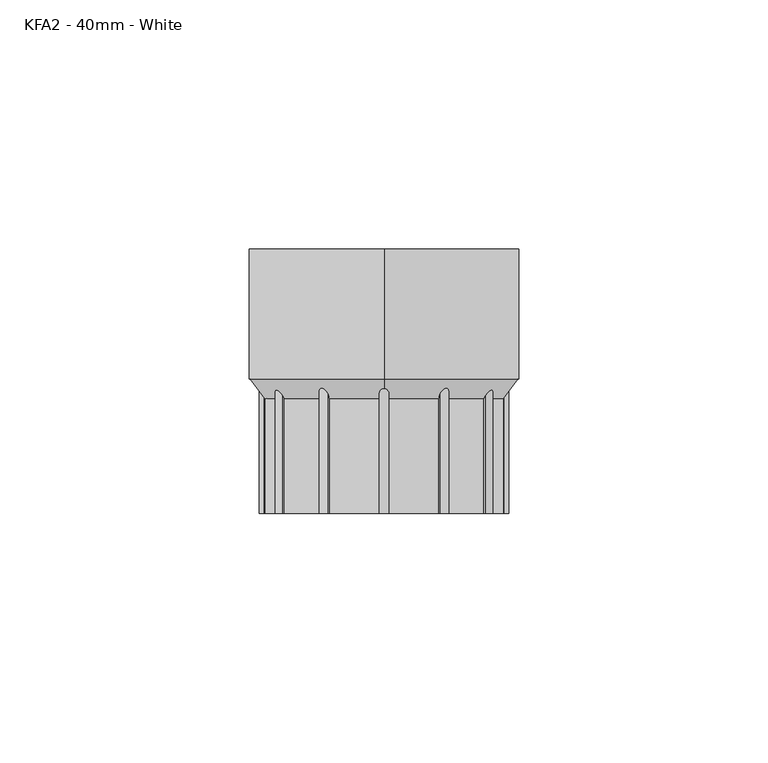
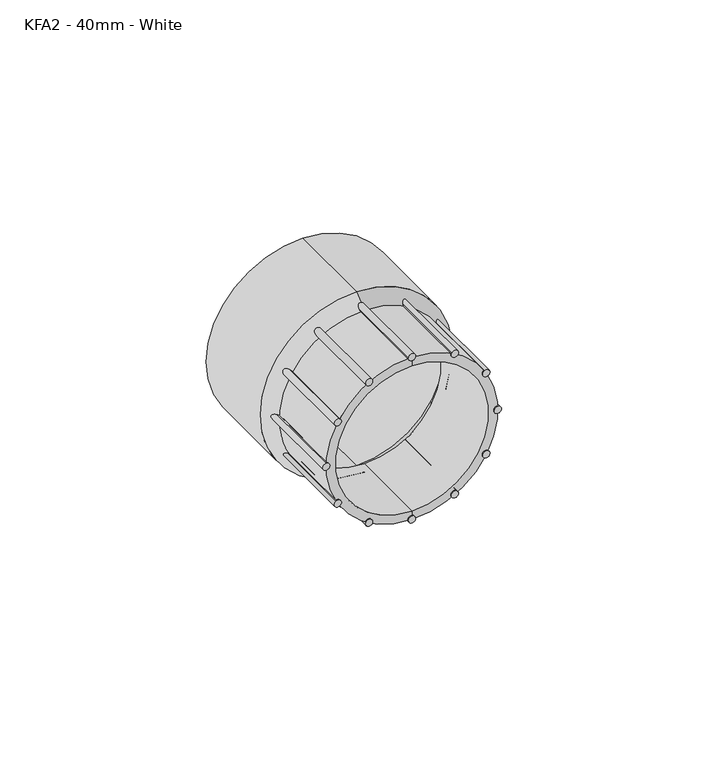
"""IFC4 building model written with IfcOpenShell, lengths in millimetres: pipe fitting geometry, MarleyPlumbingAndDrainage_PipeFitting_FemaleIronAdaptor : KFA2 - 40mm - White."""

from ifc_helpers import new_model, si_unit, point, frame, frame_2d, origin, place, context, project, spatial, polyline, circle_curve, trimmed, segment, composite_curve, outline, extrude, source, transform, mapped, element, save
from ifc_brep_helpers import plane_surface, cylinder_surface, revolved_surface, advanced_brep


def kfa2_40mm_white_4137147a(model_context):
    return source(origin(), model_context, "Body", "SolidModel", [
        extrude(outline(composite_curve([segment(trimmed(circle_curve(frame_2d((12.0, 5.9592279)), 1.0), [point((12.8660254, 5.4592279))], [point((11.1339746, 6.4592279))], False, "CARTESIAN"), True, "CONTINUOUS"), segment(trimmed(circle_curve(frame_2d((12.0, 5.9592279)), 1.0), [point((11.1339746, 6.4592279))], [point((12.8660254, 5.4592279))], False, "CARTESIAN"), True, "CONTINUOUS")], self_intersect=False)), frame((0.0, -27.0, 0.0), z_axis=(0.0, 1.0, 0.0), x_axis=(0.0, 0.0, 1.0)), (0.0, 0.0, 1.0), 25.0),
        extrude(outline(composite_curve([segment(trimmed(circle_curve(frame_2d((0.0, 9.1746182)), 1.0), [point((1.0, 9.1746182))], [point((-1.0, 9.1746182))], False, "CARTESIAN"), True, "CONTINUOUS"), segment(trimmed(circle_curve(frame_2d((0.0, 9.1746182)), 1.0), [point((-1.0, 9.1746182))], [point((1.0, 9.1746182))], False, "CARTESIAN"), True, "CONTINUOUS")], self_intersect=False)), frame((0.0, -27.0, 0.0), z_axis=(0.0, 1.0, 0.0), x_axis=(0.0, 0.0, 1.0)), (0.0, 0.0, 1.0), 25.0),
        extrude(outline(composite_curve([segment(trimmed(circle_curve(frame_2d((-12.0, 5.9592279)), 1.0), [point((-11.1339746, 6.4592279))], [point((-12.8660254, 5.4592279))], False, "CARTESIAN"), True, "CONTINUOUS"), segment(trimmed(circle_curve(frame_2d((-12.0, 5.9592279)), 1.0), [point((-12.8660254, 5.4592279))], [point((-11.1339746, 6.4592279))], False, "CARTESIAN"), True, "CONTINUOUS")], self_intersect=False)), frame((0.0, -27.0, 0.0), z_axis=(0.0, 1.0, 0.0), x_axis=(0.0, 0.0, 1.0)), (0.0, 0.0, 1.0), 25.0),
        extrude(outline(composite_curve([segment(trimmed(circle_curve(frame_2d((-20.7846097, -2.8253818)), 1.0), [point((-20.2846097, -1.9593564))], [point((-21.2846097, -3.6914072))], False, "CARTESIAN"), True, "CONTINUOUS"), segment(trimmed(circle_curve(frame_2d((-20.7846097, -2.8253818)), 1.0), [point((-21.2846097, -3.6914072))], [point((-20.2846097, -1.9593564))], False, "CARTESIAN"), True, "CONTINUOUS")], self_intersect=False)), frame((0.0, -27.0, 0.0), z_axis=(0.0, 1.0, 0.0), x_axis=(0.0, 0.0, 1.0)), (0.0, 0.0, 1.0), 25.0),
        extrude(outline(composite_curve([segment(trimmed(circle_curve(frame_2d((-24.0, -14.8253818)), 1.0), [point((-24.0, -13.8253818))], [point((-24.0, -15.8253818))], False, "CARTESIAN"), True, "CONTINUOUS"), segment(trimmed(circle_curve(frame_2d((-24.0, -14.8253818)), 1.0), [point((-24.0, -15.8253818))], [point((-24.0, -13.8253818))], False, "CARTESIAN"), True, "CONTINUOUS")], self_intersect=False)), frame((0.0, -27.0, 0.0), z_axis=(0.0, 1.0, 0.0), x_axis=(0.0, 0.0, 1.0)), (0.0, 0.0, 1.0), 25.0),
        extrude(outline(composite_curve([segment(trimmed(circle_curve(frame_2d((-20.7846097, -26.8253818)), 1.0), [point((-21.2846097, -25.9593564))], [point((-20.2846097, -27.6914072))], False, "CARTESIAN"), True, "CONTINUOUS"), segment(trimmed(circle_curve(frame_2d((-20.7846097, -26.8253818)), 1.0), [point((-20.2846097, -27.6914072))], [point((-21.2846097, -25.9593564))], False, "CARTESIAN"), True, "CONTINUOUS")], self_intersect=False)), frame((0.0, -27.0, 0.0), z_axis=(0.0, 1.0, 0.0), x_axis=(0.0, 0.0, 1.0)), (0.0, 0.0, 1.0), 25.0),
        extrude(outline(composite_curve([segment(trimmed(circle_curve(frame_2d((-12.0, -35.6099915)), 1.0), [point((-12.8660254, -35.1099915))], [point((-11.1339746, -36.1099915))], False, "CARTESIAN"), True, "CONTINUOUS"), segment(trimmed(circle_curve(frame_2d((-12.0, -35.6099915)), 1.0), [point((-11.1339746, -36.1099915))], [point((-12.8660254, -35.1099915))], False, "CARTESIAN"), True, "CONTINUOUS")], self_intersect=False)), frame((0.0, -27.0, 0.0), z_axis=(0.0, 1.0, 0.0), x_axis=(0.0, 0.0, 1.0)), (0.0, 0.0, 1.0), 25.0),
        extrude(outline(composite_curve([segment(trimmed(circle_curve(frame_2d((0.0, -38.8253818)), 1.0), [point((-1.0, -38.8253818))], [point((1.0, -38.8253818))], False, "CARTESIAN"), True, "CONTINUOUS"), segment(trimmed(circle_curve(frame_2d((0.0, -38.8253818)), 1.0), [point((1.0, -38.8253818))], [point((-1.0, -38.8253818))], False, "CARTESIAN"), True, "CONTINUOUS")], self_intersect=False)), frame((0.0, -27.0, 0.0), z_axis=(0.0, 1.0, 0.0), x_axis=(0.0, 0.0, 1.0)), (0.0, 0.0, 1.0), 25.0),
        extrude(outline(composite_curve([segment(trimmed(circle_curve(frame_2d((12.0, -35.6099915)), 1.0), [point((11.1339746, -36.1099915))], [point((12.8660254, -35.1099915))], False, "CARTESIAN"), True, "CONTINUOUS"), segment(trimmed(circle_curve(frame_2d((12.0, -35.6099915)), 1.0), [point((12.8660254, -35.1099915))], [point((11.1339746, -36.1099915))], False, "CARTESIAN"), True, "CONTINUOUS")], self_intersect=False)), frame((0.0, -27.0, 0.0), z_axis=(0.0, 1.0, 0.0), x_axis=(0.0, 0.0, 1.0)), (0.0, 0.0, 1.0), 25.0),
        extrude(outline(composite_curve([segment(trimmed(circle_curve(frame_2d((20.7846097, -26.8253818)), 1.0), [point((20.2846097, -27.6914072))], [point((21.2846097, -25.9593564))], False, "CARTESIAN"), True, "CONTINUOUS"), segment(trimmed(circle_curve(frame_2d((20.7846097, -26.8253818)), 1.0), [point((21.2846097, -25.9593564))], [point((20.2846097, -27.6914072))], False, "CARTESIAN"), True, "CONTINUOUS")], self_intersect=False)), frame((0.0, -27.0, 0.0), z_axis=(0.0, 1.0, 0.0), x_axis=(0.0, 0.0, 1.0)), (0.0, 0.0, 1.0), 25.0),
        extrude(outline(composite_curve([segment(trimmed(circle_curve(frame_2d((20.7846097, -2.8253818)), 1.0), [point((21.2846097, -3.6914072))], [point((20.2846097, -1.9593564))], False, "CARTESIAN"), True, "CONTINUOUS"), segment(trimmed(circle_curve(frame_2d((20.7846097, -2.8253818)), 1.0), [point((20.2846097, -1.9593564))], [point((21.2846097, -3.6914072))], False, "CARTESIAN"), True, "CONTINUOUS")], self_intersect=False)), frame((0.0, -27.0, 0.0), z_axis=(0.0, 1.0, 0.0), x_axis=(0.0, 0.0, 1.0)), (0.0, 0.0, 1.0), 25.0),
        extrude(outline(composite_curve([segment(trimmed(circle_curve(frame_2d((24.0, -14.8253818)), 1.0), [point((24.0, -15.8253818))], [point((24.0, -13.8253818))], False, "CARTESIAN"), True, "CONTINUOUS"), segment(trimmed(circle_curve(frame_2d((24.0, -14.8253818)), 1.0), [point((24.0, -13.8253818))], [point((24.0, -15.8253818))], False, "CARTESIAN"), True, "CONTINUOUS")], self_intersect=False)), frame((0.0, -27.0, 0.0), z_axis=(0.0, 1.0, 0.0), x_axis=(0.0, 0.0, 1.0)), (0.0, 0.0, 1.0), 25.0),
        advanced_brep(
        [(-14.8253818, -27.0, -21.5), (-14.8253818, -27.0, 21.5), (-14.8253818, -27.0, 24.0), (-14.8253818, -27.0, -24.0), (-14.8253818, -4.0, -21.5), (-14.8253818, -4.0, 21.5), (-14.8253818, 0.0, -24.5), (-14.8253818, 0.0, 24.5), (-14.8253818, 26.0, -24.5), (-14.8253818, 26.0, 24.5), (-14.8253818, 26.0, -27.0), (-14.8253818, 26.0, 27.0), (-14.8253818, 0.0, -27.0), (-14.8253818, 0.0, 27.0), (-14.8253818, -4.0, -24.0), (-14.8253818, -4.0, 24.0)],
        [
            (0, 1, circle_curve(frame((-14.8253818, -27.0, 0.0), z_axis=(0.0, 1.0, 0.0), x_axis=(0.0, 0.0, 1.0)), 21.5)),
            (1, 2),
            (2, 3, circle_curve(frame((-14.8253818, -27.0, 0.0), z_axis=(0.0, -1.0, 0.0), x_axis=(0.0, 0.0, 1.0)), 24.0)),
            (3, 0),
            (1, 0, circle_curve(frame((-14.8253818, -27.0, 0.0), z_axis=(0.0, 1.0, 0.0), x_axis=(0.0, 0.0, 1.0)), 21.5)),
            (3, 2, circle_curve(frame((-14.8253818, -27.0, 0.0), z_axis=(0.0, -1.0, 0.0), x_axis=(0.0, 0.0, 1.0)), 24.0)),
            (4, 5, circle_curve(frame((-14.8253818, -4.0, 0.0), z_axis=(0.0, 1.0, 0.0), x_axis=(0.0, 0.0, 1.0)), 21.5)),
            (5, 1),
            (0, 4),
            (5, 4, circle_curve(frame((-14.8253818, -4.0, 0.0), z_axis=(0.0, 1.0, 0.0), x_axis=(0.0, 0.0, 1.0)), 21.5)),
            (6, 7, circle_curve(frame((-14.8253818, 0.0, 0.0), z_axis=(0.0, 1.0, 0.0), x_axis=(0.0, 0.0, 1.0)), 24.5)),
            (7, 5),
            (4, 6),
            (7, 6, circle_curve(frame((-14.8253818, 0.0, 0.0), z_axis=(0.0, 1.0, 0.0), x_axis=(0.0, 0.0, 1.0)), 24.5)),
            (8, 9, circle_curve(frame((-14.8253818, 26.0, 0.0), z_axis=(0.0, 1.0, 0.0), x_axis=(0.0, 0.0, 1.0)), 24.5)),
            (9, 7),
            (6, 8),
            (9, 8, circle_curve(frame((-14.8253818, 26.0, 0.0), z_axis=(0.0, 1.0, 0.0), x_axis=(0.0, 0.0, 1.0)), 24.5)),
            (10, 11, circle_curve(frame((-14.8253818, 26.0, 0.0), z_axis=(0.0, 1.0, 0.0), x_axis=(0.0, 0.0, 1.0)), 27.0)),
            (11, 9),
            (8, 10),
            (11, 10, circle_curve(frame((-14.8253818, 26.0, 0.0), z_axis=(0.0, 1.0, 0.0), x_axis=(0.0, 0.0, 1.0)), 27.0)),
            (12, 13, circle_curve(frame((-14.8253818, 0.0, 0.0), z_axis=(0.0, 1.0, 0.0), x_axis=(0.0, 0.0, 1.0)), 27.0)),
            (13, 11),
            (10, 12),
            (13, 12, circle_curve(frame((-14.8253818, 0.0, 0.0), z_axis=(0.0, 1.0, 0.0), x_axis=(0.0, 0.0, 1.0)), 27.0)),
            (14, 15, circle_curve(frame((-14.8253818, -4.0, 0.0), z_axis=(0.0, 1.0, 0.0), x_axis=(0.0, 0.0, 1.0)), 24.0)),
            (15, 13),
            (12, 14),
            (15, 14, circle_curve(frame((-14.8253818, -4.0, 0.0), z_axis=(0.0, 1.0, 0.0), x_axis=(0.0, 0.0, 1.0)), 24.0)),
            (2, 15),
            (14, 3),
        ],
        [
            plane_surface(frame((-14.8253818, -27.0, 0.0), z_axis=(0.0, -1.0, 0.0), x_axis=(0.0, 0.0, 1.0))),
            revolved_surface(polyline([(-14.8253818, -27.0, 21.5), (-14.8253818, -4.0, 21.5)]), (-14.8253818, 1633.5437807, 0.0), (0.0, -1.0, 0.0)),
            revolved_surface(polyline([(-14.8253818, -4.0, 21.5), (-14.8253818, 0.0, 24.5)]), (-14.8253818, 1633.5437807, 0.0), (0.0, -1.0, 0.0)),
            revolved_surface(polyline([(-14.8253818, 0.0, 24.5), (-14.8253818, 26.0, 24.5)]), (-14.8253818, 1633.5437807, 0.0), (0.0, -1.0, 0.0)),
            plane_surface(frame((-14.8253818, 26.0, 0.0), z_axis=(0.0, 1.0, 0.0), x_axis=(0.0, 0.0, 1.0))),
            cylinder_surface(frame((-14.8253818, 1633.5437807, 0.0), z_axis=(0.0, -1.0, 0.0), x_axis=(0.0, 0.0, 1.0)), 27.0),
            revolved_surface(polyline([(-14.8253818, 0.0, 27.0), (-14.8253818, -4.0, 24.0)]), (-14.8253818, 1633.5437807, 0.0), (0.0, -1.0, 0.0)),
            cylinder_surface(frame((-14.8253818, 1633.5437807, 0.0), z_axis=(0.0, -1.0, 0.0), x_axis=(0.0, 0.0, 1.0)), 24.0),
        ],
        [
            (0, [[1, 2, 3, 4]]),
            (0, [[5, -4, 6, -2]]),
            (1, [[7, 8, -1, 9]]),
            (1, [[10, -9, -5, -8]]),
            (2, [[11, 12, -7, 13]]),
            (2, [[14, -13, -10, -12]]),
            (3, [[15, 16, -11, 17]]),
            (3, [[18, -17, -14, -16]]),
            (4, [[19, 20, -15, 21]]),
            (4, [[22, -21, -18, -20]]),
            (5, [[23, 24, -19, 25]]),
            (5, [[26, -25, -22, -24]]),
            (6, [[27, 28, -23, 29]]),
            (6, [[30, -29, -26, -28]]),
            (7, [[-3, 31, -27, 32]]),
            (7, [[-6, -32, -30, -31]]),
        ],
    ),
    ])


if __name__ == "__main__":
    model = new_model("IFC4")
    model_context = context("Model", 3, world=origin())
    ifc_project = project(units=[si_unit("LENGTHUNIT", "METRE", prefix="MILLI")], contexts=[model_context])
    site = spatial("IfcSite", under=ifc_project)
    building = spatial("IfcBuilding", under=site)
    placement = place(None, origin())
    kfa2_40mm_white_shape = kfa2_40mm_white_4137147a(model_context)
    element("IfcPipeFitting", 1, ObjectType="MarleyPlumbingAndDrainage_PipeFitting_FemaleIronAdaptor : KFA2 - 40mm - White", at=placement, inside=building, context=model_context, shape_type="MappedRepresentation", body=[
        mapped(kfa2_40mm_white_shape, transform((0.0, 0.0, 0.0), x_axis=(1.0, 0.0, 0.0), y_axis=(0.0, 1.0, 0.0), z_axis=(0.0, 0.0, 1.0))),
    ])
    save(model, "model.ifc")
